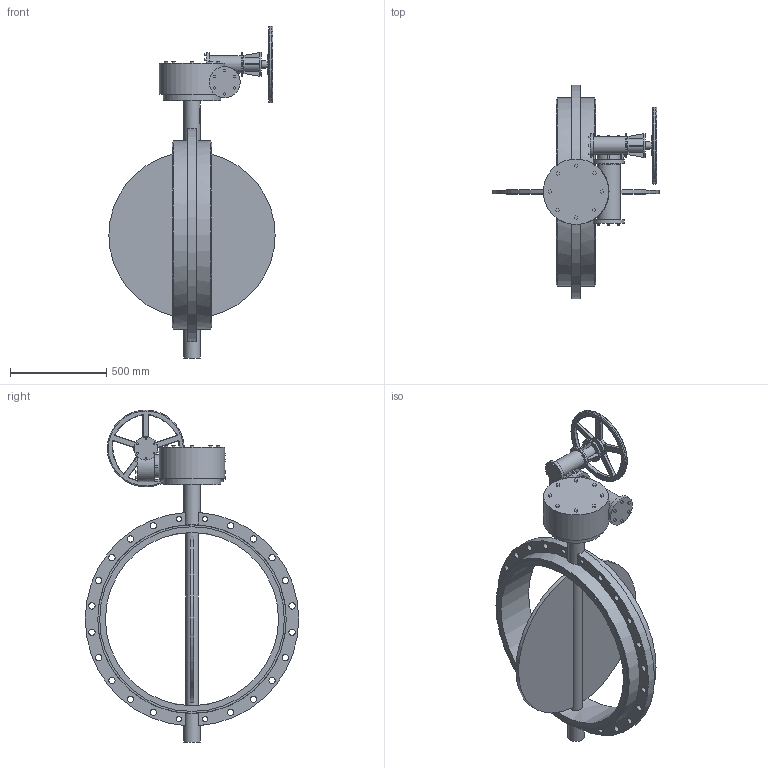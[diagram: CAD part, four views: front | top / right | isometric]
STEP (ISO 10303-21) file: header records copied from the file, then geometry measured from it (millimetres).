
FILE_DESCRIPTION(('STEP AP203'), '1');
FILE_NAME('青蜮铕 017W.YS_DN900_PN10_疱潴牝铕', '', ('UNSPECIFIED'), ('UNSPECIFIED'), 'ASCON STEP Converter 1.6', 'ASCON Math Kernel', '');
FILE_SCHEMA(('CONFIG_CONTROL_DESIGN'));
Length unit declared in the file: millimetre
Bounding box: 864.7 x 1110 x 1726 mm (x, y, z)
Volume: 72942135.1 mm3; surface area: 4176835.6 mm2
Topology: 1 solids, 1 shells, 600 faces, 1525 edges, 974 vertices
Faces by surface type: plane 372, cylinder 127, torus 78, cone 16, bspline 7
Full cylindrical faces by diameter (mm): 13.835 x8, 18 x8, 26.211 x4, 33 x20, 40 x1, 65 x1, 85 x2, 90 x1, 100 x1, 120 x2, 121 x2, 125 x1, 161 x3, 300 x1, 340 x1, 400 x1, 900 x1, 960 x2, 980 x2
Entity records: 25212 total; most frequent: CARTESIAN_POINT 5901, DIRECTION 3004, ORIENTED_EDGE 2862, EDGE_CURVE 1431, AXIS2_PLACEMENT_3D 1032, VERTEX_POINT 966, LINE 940, VECTOR 940
